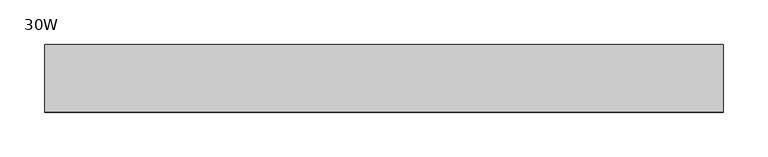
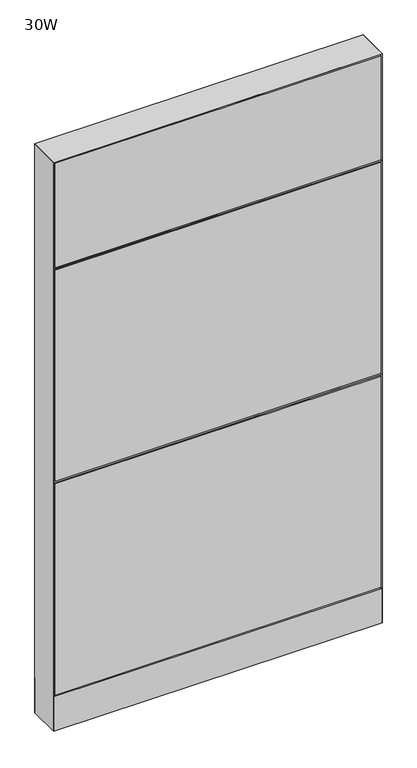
"""IFC4 building model written with IfcOpenShell, lengths in millimetres: furniture geometry, Steelcase - Montage - Frame - 55H - Enhanced Monolithic - Base Cavity : 30W."""

from ifc_helpers import new_model, si_unit, point, frame, frame_2d, origin, origin_with_axes, place, context, project, spatial, polyline, circle_curve, trimmed, segment, composite_curve, outline, extrude, faceted_brep, source, transform, mapped, element, save


def furniture_30w_0489fb91(model_context):
    return source(origin(), model_context, "Body", "SolidModel", [
        extrude(outline(polyline([(758.825, 31.7500194), (3.175, 31.7500194), (3.175, 38.1000194), (758.825, 38.1000194), (758.825, 31.7500194)])), frame((0.0, 0.0, 92.075), z_axis=(0.0, 0.0, 1.0), x_axis=(1.0, 0.0, 0.0)), (0.0, 0.0, 1.0), 517.525),
        faceted_brep([(762.0, 38.1026297, 612.775), (0.0, 38.1026297, 612.775), (6.3499953, 31.7526299, 619.1249997), (755.6500083, 31.7526299, 619.1249997), (755.6500083, 31.7526299, 606.4250003), (6.3499953, 31.7526299, 606.4250003)], [[[0, 1, 2, 3]], [[1, 0, 4, 5]], [[3, 2, 5, 4]], [[0, 3, 4]], [[2, 1, 5]]]),
        faceted_brep([(762.0, 38.1026297, 1136.65), (0.0, 38.1026297, 1136.65), (6.3499953, 31.7526299, 1142.9999997), (755.6500083, 31.7526299, 1142.9999997), (755.6500083, 31.7526299, 1130.3000003), (6.3499953, 31.7526299, 1130.3000003)], [[[0, 1, 2, 3]], [[1, 0, 4, 5]], [[3, 2, 5, 4]], [[0, 3, 4]], [[2, 1, 5]]]),
        extrude(outline(polyline([(758.825, 31.7500194), (3.175, 31.7500194), (3.175, 38.1000194), (758.825, 38.1000194), (758.825, 31.7500194)])), frame((0.0, 0.0, 615.95), z_axis=(0.0, 0.0, 1.0), x_axis=(1.0, 0.0, 0.0)), (0.0, 0.0, 1.0), 517.525),
        extrude(outline(polyline([(758.825, 31.7500194), (3.175, 31.7500194), (3.175, 38.1000194), (758.825, 38.1000194), (758.825, 31.7500194)])), frame((0.0, 0.0, 1139.825), z_axis=(0.0, 0.0, 1.0), x_axis=(1.0, 0.0, 0.0)), (0.0, 0.0, 1.0), 255.5875),
        extrude(outline(polyline([(3.175, 31.7500194), (3.175, 38.1000194), (758.825, 38.1000194), (758.825, 31.7500194), (3.175, 31.7500194)])), frame((0.0, 0.0, 92.075), z_axis=(0.0, 0.0, 1.0), x_axis=(1.0, 0.0, 0.0)), (0.0, 0.0, 1.0), 517.525),
        faceted_brep([(-5.4e-06, 38.102627, 612.7750027), (6.3499917, 31.7526299, 619.1249997), (755.6500047, 31.7526299, 619.1249997), (762.0, 38.1026253, 612.7750044), (755.6500047, 31.7526299, 606.4250003), (6.3499917, 31.7526299, 606.4250003)], [[[0, 1, 2, 3]], [[3, 4, 5, 0]], [[1, 5, 4, 2]], [[0, 5, 1]], [[2, 4, 3]]]),
        faceted_brep([(-5.4e-06, 38.102627, 1136.6500027), (6.3499917, 31.7526299, 1142.9999997), (755.6500047, 31.7526299, 1142.9999997), (762.0, 38.1026253, 1136.6500044), (755.6500047, 31.7526299, 1130.3000003), (6.3499917, 31.7526299, 1130.3000003)], [[[0, 1, 2, 3]], [[3, 4, 5, 0]], [[1, 5, 4, 2]], [[0, 5, 1]], [[2, 4, 3]]]),
        extrude(outline(polyline([(3.175, 31.7500194), (3.175, 38.1000194), (758.825, 38.1000194), (758.825, 31.7500194), (3.175, 31.7500194)])), frame((0.0, 0.0, 615.95), z_axis=(0.0, 0.0, 1.0), x_axis=(1.0, 0.0, 0.0)), (0.0, 0.0, 1.0), 517.525),
        extrude(outline(polyline([(3.175, 31.7500194), (3.175, 38.1000194), (758.825, 38.1000194), (758.825, 31.7500194), (3.175, 31.7500194)])), frame((0.0, 0.0, 1139.825), z_axis=(0.0, 0.0, 1.0), x_axis=(1.0, 0.0, 0.0)), (0.0, 0.0, 1.0), 255.5875),
        extrude(outline(polyline([(3.175, -31.7500194), (758.825, -31.7500194), (758.825, -38.1000194), (3.175, -38.1000194), (3.175, -31.7500194)])), frame((0.0, 0.0, 92.075), z_axis=(0.0, 0.0, 1.0), x_axis=(1.0, 0.0, 0.0)), (0.0, 0.0, 1.0), 517.525),
        faceted_brep([(0.0, -38.1026297, 612.775), (762.0, -38.1026297, 612.775), (755.6500047, -31.7526299, 619.1249997), (6.3499917, -31.7526299, 619.1249997), (6.3499917, -31.7526299, 606.4250003), (755.6500047, -31.7526299, 606.4250003)], [[[0, 1, 2, 3]], [[1, 0, 4, 5]], [[3, 2, 5, 4]], [[0, 3, 4]], [[2, 1, 5]]]),
        faceted_brep([(0.0, -38.1026297, 1136.65), (762.0, -38.1026297, 1136.65), (755.6500047, -31.7526299, 1142.9999997), (6.3499917, -31.7526299, 1142.9999997), (6.3499917, -31.7526299, 1130.3000003), (755.6500047, -31.7526299, 1130.3000003)], [[[0, 1, 2, 3]], [[1, 0, 4, 5]], [[3, 2, 5, 4]], [[0, 3, 4]], [[2, 1, 5]]]),
        extrude(outline(polyline([(3.175, -31.7500194), (758.825, -31.7500194), (758.825, -38.1000194), (3.175, -38.1000194), (3.175, -31.7500194)])), frame((0.0, 0.0, 615.95), z_axis=(0.0, 0.0, 1.0), x_axis=(1.0, 0.0, 0.0)), (0.0, 0.0, 1.0), 517.525),
        extrude(outline(polyline([(3.175, -31.7500194), (758.825, -31.7500194), (758.825, -38.1000194), (3.175, -38.1000194), (3.175, -31.7500194)])), frame((0.0, 0.0, 1139.825), z_axis=(0.0, 0.0, 1.0), x_axis=(1.0, 0.0, 0.0)), (0.0, 0.0, 1.0), 255.5875),
        extrude(outline(polyline([(6.350003, -31.7499985), (755.649997, -31.7499985), (762.0, -38.1000015), (0.0, -38.1000015), (6.350003, -31.7499985)])), frame((0.0, 0.0, 4.064), z_axis=(0.0, 0.0, 1.0), x_axis=(1.0, 0.0, 0.0)), (0.0, 0.0, 1.0), 84.835997),
        extrude(outline(polyline([(6.3500002, 31.7500017), (0.0, 38.1000015), (762.0, 38.1000015), (755.6500002, 31.7500017), (6.3500002, 31.7500017)])), frame((0.0, 0.0, 4.064), z_axis=(0.0, 0.0, 1.0), x_axis=(1.0, 0.0, 0.0)), (0.0, 0.0, 1.0), 84.835997),
        faceted_brep([(762.0, -38.1000015, 1398.5875), (0.0, -38.1000015, 1398.5875), (6.3500484, -31.749953, 1392.2374516), (755.6499516, -31.749953, 1392.2374516), (6.3500484, 31.749953, 1392.2374516), (755.6499516, 31.749953, 1392.2374516), (0.0, 38.1000015, 1398.5875), (762.0, 38.1000015, 1398.5875)], [[[0, 1, 2, 3]], [[3, 2, 4, 5]], [[6, 7, 5, 4]], [[1, 0, 7, 6]], [[2, 1, 6, 4]], [[0, 3, 5, 7]]]),
        extrude(outline(composite_curve([segment(trimmed(circle_curve(frame_2d((44.45, 0.0)), 15.24), [point((29.21, 0.0))], [point((59.69, 0.0))], False, "CARTESIAN"), True, "CONTINUOUS"), segment(trimmed(circle_curve(frame_2d((44.45, 0.0)), 15.24), [point((59.69, 0.0))], [point((29.21, 0.0))], False, "CARTESIAN"), True, "CONTINUOUS")], self_intersect=False)), origin_with_axes(), (0.0, 0.0, 1.0), 4.064),
        extrude(outline(composite_curve([segment(trimmed(circle_curve(frame_2d((717.55, 0.0)), 15.24), [point((702.31, 0.0))], [point((732.79, 0.0))], False, "CARTESIAN"), True, "CONTINUOUS"), segment(trimmed(circle_curve(frame_2d((717.55, 0.0)), 15.24), [point((732.79, 0.0))], [point((702.31, 0.0))], False, "CARTESIAN"), True, "CONTINUOUS")], self_intersect=False)), origin_with_axes(), (0.0, 0.0, 1.0), 4.064),
        faceted_brep([(762.0, -38.1000106, 4.064), (762.0, 38.1000015, 4.064), (762.0, 38.1000015, 1398.5875), (762.0, -38.1000106, 1398.5874637), (0.0, 38.1000015, 4.064), (0.0, -38.1000015, 4.064), (0.0, -38.1000015, 1398.5875), (0.0, 38.1000015, 1398.5875), (755.6499879, 31.7500017, 606.425), (6.35, 31.7500017, 606.425), (6.3499998, 31.7500017, 619.125), (755.6499879, 31.7500017, 619.125), (6.35, -31.7499985, 619.125), (755.6499879, -31.7499985, 619.125), (6.350003, -31.7499985, 606.425), (755.6499879, -31.7499985, 606.425), (6.35, 31.7500015, 4.064), (6.35, -31.7500015, 4.064), (755.6499879, 31.7499894, 4.064), (755.6499879, -31.7499985, 4.064), (6.35, 31.7500015, 1392.2375), (6.35, -31.7500015, 1392.2375), (755.6499879, -31.7499985, 1392.2374516), (755.6499879, 31.7499895, 1392.2374516)], [[[0, 1, 2, 3]], [[4, 5, 6, 7]], [[8, 9, 10, 11]], [[11, 10, 12, 13]], [[13, 12, 14, 15]], [[9, 8, 15, 14]], [[16, 17, 5, 4]], [[18, 1, 0, 19]], [[16, 4, 7, 20, 10, 9]], [[5, 17, 14, 12, 21, 6]], [[12, 10, 20, 21]], [[17, 16, 9, 14]], [[11, 13, 22, 23]], [[18, 19, 15, 8]], [[19, 0, 3, 22, 13, 15]], [[1, 18, 8, 11, 23, 2]], [[7, 6, 21, 20]], [[3, 2, 23, 22]]]),
    ])


if __name__ == "__main__":
    model = new_model("IFC4")
    model_context = context("Model", 3, world=origin())
    ifc_project = project(units=[si_unit("LENGTHUNIT", "METRE", prefix="MILLI")], contexts=[model_context])
    site = spatial("IfcSite", under=ifc_project)
    building = spatial("IfcBuilding", under=site)
    placement = place(None, origin())
    furniture_30w_shape = furniture_30w_0489fb91(model_context)
    element("IfcFurniture", 1, ObjectType="Steelcase - Montage - Frame - 55H - Enhanced Monolithic - Base Cavity : 30W", at=placement, inside=building, context=model_context, shape_type="MappedRepresentation", body=[
        mapped(furniture_30w_shape, transform((0.0, 0.0, 0.0), x_axis=(1.0, 0.0, 0.0), y_axis=(0.0, 1.0, 0.0), z_axis=(0.0, 0.0, 1.0))),
    ])
    save(model, "model.ifc")
